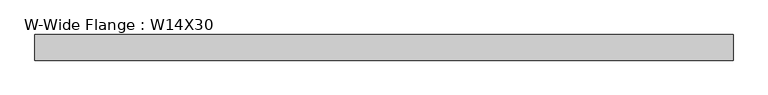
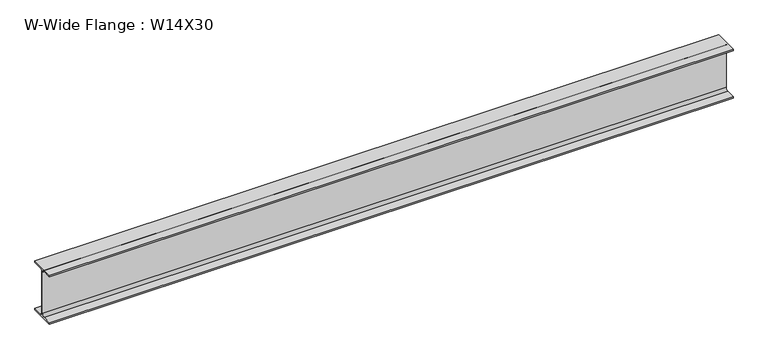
"""IFC4 building model written with IfcOpenShell, lengths in millimetres: beam geometry, W-Wide Flange : W14X30."""

import ifcopenshell
import ifcopenshell.guid

model = None  # the IFC model being written
_history = None  # IfcOwnerHistory: only IFC2X3 demands one
_inside = {}  # id of a spatial element -> (the spatial element, [elements in it])
_under = {}  # id of a project, library or spatial element -> (it, [spatial elements below it])
_declared = {}  # id of a project -> (the project, [libraries it declares])
_typed = {}  # id of a type object -> (the type object, [elements of that type])
_made_of = {}  # id of a material, layer set ... -> (it, [elements and type objects made of it])


def new_model(schema):
    """Start an empty IFC model of exactly this schema.

    Asked for "IFC4X3", IfcOpenShell would pick the latest addendum, in which some entities
    have other attributes; the version numbers below select the first issue.
    IFC2X3 requires an IfcOwnerHistory on every rooted entity: one is made here for all.
    """
    global model, _history
    if schema == "IFC4X3":
        model = ifcopenshell.file(schema_version=(4, 3, 0, 0))
    else:
        model = ifcopenshell.file(schema=schema)
    _inside.clear()
    _under.clear()
    _declared.clear()
    _typed.clear()
    _made_of.clear()
    _history = None
    if model.schema == "IFC2X3":
        org = make("IfcOrganization", Name="unknown")
        user = make(
            "IfcPersonAndOrganization",
            ThePerson=make("IfcPerson", FamilyName="unknown"),
            TheOrganization=org,
        )
        app = make(
            "IfcApplication",
            ApplicationDeveloper=org,
            Version="unknown",
            ApplicationFullName="unknown",
            ApplicationIdentifier="unknown",
        )
        _history = make(
            "IfcOwnerHistory",
            OwningUser=user,
            OwningApplication=app,
            ChangeAction="ADDED",
            CreationDate=0,
        )
    return model


def make(cls, **values):
    """One entity of the class cls with the attributes given. An attribute that is None is left unset."""
    return model.create_entity(
        cls, **{name: value for name, value in values.items() if value is not None}
    )


def rooted(cls, **values):
    """An entity with a GlobalId (a new one), such as an element, a storey or a relation."""
    return make(cls, GlobalId=ifcopenshell.guid.new(), OwnerHistory=_history, **values)


def si_unit(unit_type, name, prefix=None):
    """IfcSIUnit, for example si_unit("LENGTHUNIT", "METRE", prefix="MILLI")."""
    return make("IfcSIUnit", UnitType=unit_type, Prefix=prefix, Name=name)


def assignment(units):
    """IfcUnitAssignment: the units of a project."""
    return None if units is None else make("IfcUnitAssignment", Units=units)


def point(xyz):
    """IfcCartesianPoint."""
    return None if xyz is None else make("IfcCartesianPoint", Coordinates=xyz)


def direction(xyz):
    """IfcDirection."""
    return None if xyz is None else make("IfcDirection", DirectionRatios=xyz)


def frame(location, z_axis=None, x_axis=None):
    """IfcAxis2Placement3D, a coordinate frame: its origin and axes. An axis left out is left unset."""
    return make(
        "IfcAxis2Placement3D",
        Location=point(location),
        Axis=direction(z_axis),
        RefDirection=direction(x_axis),
    )


def frame_2d(location, x_axis=None):
    """IfcAxis2Placement2D, a coordinate frame in the plane: its origin and x axis."""
    return make(
        "IfcAxis2Placement2D", Location=point(location), RefDirection=direction(x_axis)
    )


def origin():
    """The frame at (0, 0, 0) with its axes left unset."""
    return frame((0.0, 0.0, 0.0))


def place(relative_to, where):
    """IfcLocalPlacement: puts the frame where relative to a parent placement (None: the world)."""
    return make(
        "IfcLocalPlacement", PlacementRelTo=relative_to, RelativePlacement=where
    )


def context(
    kind, dimensions, precision=None, world=None, true_north=None, identifier=None
):
    """IfcGeometricRepresentationContext, for example the 3D "Model" context."""
    return make(
        "IfcGeometricRepresentationContext",
        ContextIdentifier=identifier,
        ContextType=kind,
        CoordinateSpaceDimension=dimensions,
        Precision=precision,
        WorldCoordinateSystem=world,
        TrueNorth=true_north,
    )


def project(units=None, contexts=None):
    """IfcProject with its units and contexts."""
    return rooted(
        "IfcProject",
        Name="project",
        RepresentationContexts=contexts,
        UnitsInContext=assignment(units),
    )


def spatial(cls, under=None, at=None, **own):
    """A site, building, storey or space (cls), placed at a placement, below another one or the project."""
    s = rooted(cls, ObjectPlacement=at, **own)
    if under is not None:
        _under.setdefault(under.id(), (under, []))[1].append(s)
    return s


def polyline(points):
    """IfcPolyline through the points."""
    return make("IfcPolyline", Points=[point(p) for p in points])


def circle_curve(where, radius):
    """IfcCircle in the frame where."""
    return make("IfcCircle", Position=where, Radius=radius)


def trimmed(basis, trim1, trim2, sense, master):
    """IfcTrimmedCurve: the piece of a basis curve between two trims."""
    return make(
        "IfcTrimmedCurve",
        BasisCurve=basis,
        Trim1=trim1,
        Trim2=trim2,
        SenseAgreement=sense,
        MasterRepresentation=master,
    )


def segment(curve, same_sense, transition):
    """IfcCompositeCurveSegment."""
    return make(
        "IfcCompositeCurveSegment",
        Transition=transition,
        SameSense=same_sense,
        ParentCurve=curve,
    )


def composite_curve(segments, self_intersect=None):
    """IfcCompositeCurve: segments joined end to end."""
    return make("IfcCompositeCurve", Segments=segments, SelfIntersect=self_intersect)


def outline(outer, holes=None, kind="AREA"):
    """IfcArbitraryClosedProfileDef: a profile drawn as a closed curve; with holes, ...WithVoids."""
    if holes is None:
        return make("IfcArbitraryClosedProfileDef", ProfileType=kind, OuterCurve=outer)
    return make(
        "IfcArbitraryProfileDefWithVoids",
        ProfileType=kind,
        OuterCurve=outer,
        InnerCurves=holes,
    )


def extrude(swept, where, along, depth):
    """IfcExtrudedAreaSolid: the profile swept, set in the frame where, extruded along a direction by depth."""
    return make(
        "IfcExtrudedAreaSolid",
        SweptArea=swept,
        Position=where,
        ExtrudedDirection=direction(along),
        Depth=depth,
    )


def shape(context_of_items, identifier, shape_type, items):
    """IfcShapeRepresentation: the items that make up one representation, for example the "Body"."""
    return make(
        "IfcShapeRepresentation",
        ContextOfItems=context_of_items,
        RepresentationIdentifier=identifier,
        RepresentationType=shape_type,
        Items=items,
    )


def source(mapping_origin, context_of_items, identifier, shape_type, items):
    """IfcRepresentationMap: a shape defined once, which mapped items show again and again."""
    return make(
        "IfcRepresentationMap",
        MappingOrigin=mapping_origin,
        MappedRepresentation=shape(context_of_items, identifier, shape_type, items),
    )


def transform(
    local_origin,
    x_axis=None,
    y_axis=None,
    z_axis=None,
    scale=None,
    scale2=None,
    scale3=None,
    uniform=True,
):
    """IfcCartesianTransformationOperator3D, or its non-uniform kind. x_axis, y_axis, z_axis: its Axis1, 2, 3."""
    if uniform:
        return make(
            "IfcCartesianTransformationOperator3D",
            Axis1=direction(x_axis),
            Axis2=direction(y_axis),
            LocalOrigin=point(local_origin),
            Scale=scale,
            Axis3=direction(z_axis),
        )
    return make(
        "IfcCartesianTransformationOperator3DnonUniform",
        Axis1=direction(x_axis),
        Axis2=direction(y_axis),
        LocalOrigin=point(local_origin),
        Scale=scale,
        Axis3=direction(z_axis),
        Scale2=scale2,
        Scale3=scale3,
    )


def mapped(mapping_source, mapping_target):
    """IfcMappedItem: shows the shape of a source again, moved by a transform."""
    return make(
        "IfcMappedItem", MappingSource=mapping_source, MappingTarget=mapping_target
    )


def made_of(thing, what):
    """Note that an element or type object is made of a material, layer set ...; save() writes the relation."""
    if what is not None:
        _made_of.setdefault(what.id(), (what, []))[1].append(thing)
    return thing


def element(
    cls,
    number,
    at=None,
    inside=None,
    cuts=None,
    type_object=None,
    material=None,
    context=None,
    identifier="Body",
    shape_type=None,
    held_by="IfcProductDefinitionShape",
    body=None,
    shapes=None,
    **own,
):
    """One element of the class cls, such as IfcWall. Its Tag is "e" and its number.

    at: its placement. inside: the storey or other place that contains it. cuts: it is an
    opening in that element (IfcRelVoidsElement). A single representation is given by context,
    identifier, shape_type and body (its items); several are given by shapes. held_by: the class
    of the entity that holds the representations. save() writes the other relations.
    """
    e = rooted(cls, Tag="e%d" % number, ObjectPlacement=at, **own)
    if body is not None:
        shapes = [shape(context, identifier, shape_type, body)]
    if shapes is not None:
        e.Representation = make(held_by, Representations=shapes)
    if inside is not None:
        _inside.setdefault(inside.id(), (inside, []))[1].append(e)
    if cuts is not None:
        rooted(
            "IfcRelVoidsElement", RelatingBuildingElement=cuts, RelatedOpeningElement=e
        )
    if type_object is not None:
        _typed.setdefault(type_object.id(), (type_object, []))[1].append(e)
    return made_of(e, material)


def aggregate(whole, parts):
    """IfcRelAggregates: a whole, such as a stair, and the parts it consists of."""
    return rooted("IfcRelAggregates", RelatingObject=whole, RelatedObjects=parts)


def save(model, path):
    """Write the relations noted so far, then the file.

    IfcRelAggregates (storeys below a building ...), IfcRelContainedInSpatialStructure (elements
    in a storey), IfcRelDefinesByType, IfcRelAssociatesMaterial and IfcRelDeclares: one each for
    every whole, place, type object, material and project.
    """
    for whole, parts in _under.values():
        aggregate(whole, parts)
    for where, things in _inside.values():
        rooted(
            "IfcRelContainedInSpatialStructure",
            RelatedElements=things,
            RelatingStructure=where,
        )
    for kind, things in _typed.values():
        rooted("IfcRelDefinesByType", RelatedObjects=things, RelatingType=kind)
    for what, things in _made_of.values():
        rooted("IfcRelAssociatesMaterial", RelatedObjects=things, RelatingMaterial=what)
    for by, libraries in _declared.values():
        rooted("IfcRelDeclares", RelatingContext=by, RelatedDefinitions=libraries)
    model.write(path)


def w_wide_flange_w14x30_860b21b5(model_context):
    return source(origin(), model_context, "Body", "SweptSolid", [
        extrude(outline(composite_curve([segment(polyline([(85.4769531, -165.9433594), (85.4769531, -175.7660156), (-85.4769531, -175.7660156), (-85.4769531, -165.9433594), (-22.1753906, -165.9433594)]), True, "CONTINUOUS"), segment(trimmed(circle_curve(frame_2d((-22.1753906, -147.1910156)), 18.7523438), [point((-22.1753906, -165.9433594))], [point((-3.4230469, -147.1910156))], True, "CARTESIAN"), True, "CONTINUOUS"), segment(polyline([(-3.4230469, -147.1910156), (-3.4230469, 147.1910156)]), True, "CONTINUOUS"), segment(trimmed(circle_curve(frame_2d((-22.1753906, 147.1910156)), 18.7523438), [point((-3.4230469, 147.1910156))], [point((-22.1753906, 165.9433594))], True, "CARTESIAN"), True, "CONTINUOUS"), segment(polyline([(-22.1753906, 165.9433594), (-85.4769531, 165.9433594), (-85.4769531, 175.7660156), (85.4769531, 175.7660156), (85.4769531, 165.9433594), (22.1753906, 165.9433594)]), True, "CONTINUOUS"), segment(trimmed(circle_curve(frame_2d((22.1753906, 147.1910156)), 18.7523438), [point((22.1753906, 165.9433594))], [point((3.4230469, 147.1910156))], True, "CARTESIAN"), True, "CONTINUOUS"), segment(polyline([(3.4230469, 147.1910156), (3.4230469, -147.1910156)]), True, "CONTINUOUS"), segment(trimmed(circle_curve(frame_2d((22.1753906, -147.1910156)), 18.7523438), [point((3.4230469, -147.1910156))], [point((22.1753906, -165.9433594))], True, "CARTESIAN"), True, "CONTINUOUS"), segment(polyline([(22.1753906, -165.9433594), (85.4769531, -165.9433594)]), True, "CONTINUOUS")], self_intersect=False)), frame((-2328.4160156, 0.0, 0.0), z_axis=(1.0, 0.0, 0.0), x_axis=(0.0, 1.0, 0.0)), (0.0, 0.0, 1.0), 4656.8320313),
    ])


if __name__ == "__main__":
    model = new_model("IFC4")
    model_context = context("Model", 3, world=origin())
    ifc_project = project(units=[si_unit("LENGTHUNIT", "METRE", prefix="MILLI")], contexts=[model_context])
    site = spatial("IfcSite", under=ifc_project)
    building = spatial("IfcBuilding", under=site)
    placement = place(None, origin())
    w_wide_flange_w14x30_shape = w_wide_flange_w14x30_860b21b5(model_context)
    element("IfcBeam", 1, ObjectType="W-Wide Flange : W14X30", at=placement, inside=building, context=model_context, shape_type="MappedRepresentation", body=[
        mapped(w_wide_flange_w14x30_shape, transform((0.0, 0.0, 0.0), x_axis=(1.0, 0.0, 0.0), y_axis=(0.0, 1.0, 0.0), z_axis=(0.0, 0.0, 1.0))),
    ])
    save(model, "model.ifc")
